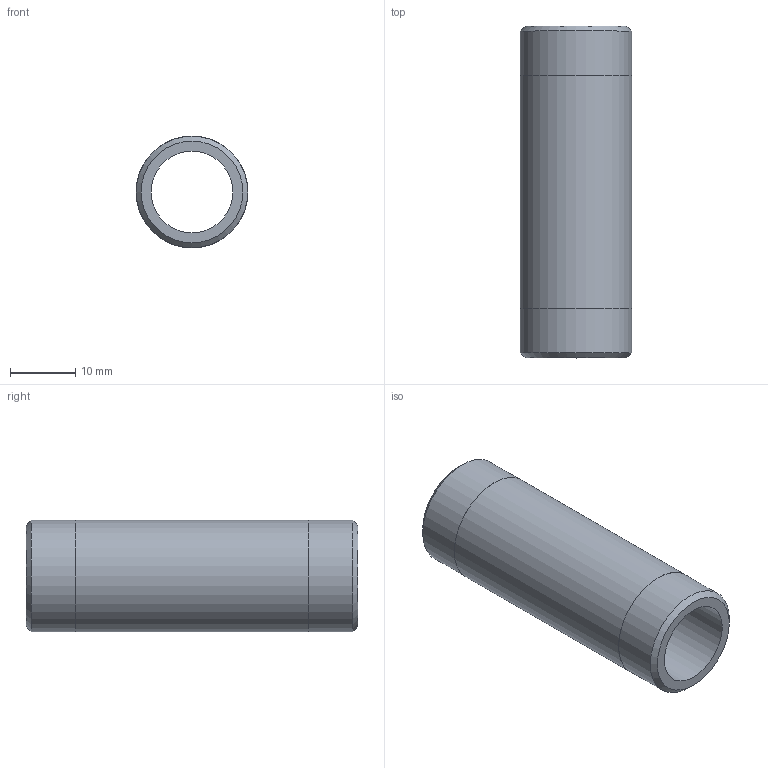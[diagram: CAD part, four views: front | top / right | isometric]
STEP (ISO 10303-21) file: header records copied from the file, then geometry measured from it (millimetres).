
FILE_DESCRIPTION(/* description */ (''),/* implementation_level */ '2;1');
FILE_NAME(/* name */ 'C:/Users/drich/Desktop/SSPN38-2 v1.step',/* time_stamp */ '2020-01-04T13:56:42-06:00',/* author */ (''),/* organization */ (''),/* preprocessor_version */ 'ST-DEVELOPER v18',/* originating_system */ 'Autodesk Translation Framework v8.12.0.6',/* authorisation */ '');
FILE_SCHEMA (('AUTOMOTIVE_DESIGN { 1 0 10303 214 3 1 1 }'));
Length unit declared in the file: inch
Products named in the file (1): SSPN38-2
Bounding box: 17.14 x 50.8 x 17.14 mm (x, y, z)
Volume: 5420.8 mm3; surface area: 4898.2 mm2
Topology: 1 solids, 1 shells, 10 faces, 24 edges, 18 vertices
Faces by surface type: cylinder 4, plane 4, cone 2
Full cylindrical faces by diameter (mm): 12.522 x1, 17.094 x2, 17.145 x1
Entity records: 353 total; most frequent: DIRECTION 64, CARTESIAN_POINT 53, ORIENTED_EDGE 48, AXIS2_PLACEMENT_3D 29, EDGE_CURVE 24, CIRCLE 18, VERTEX_POINT 18, EDGE_LOOP 14
